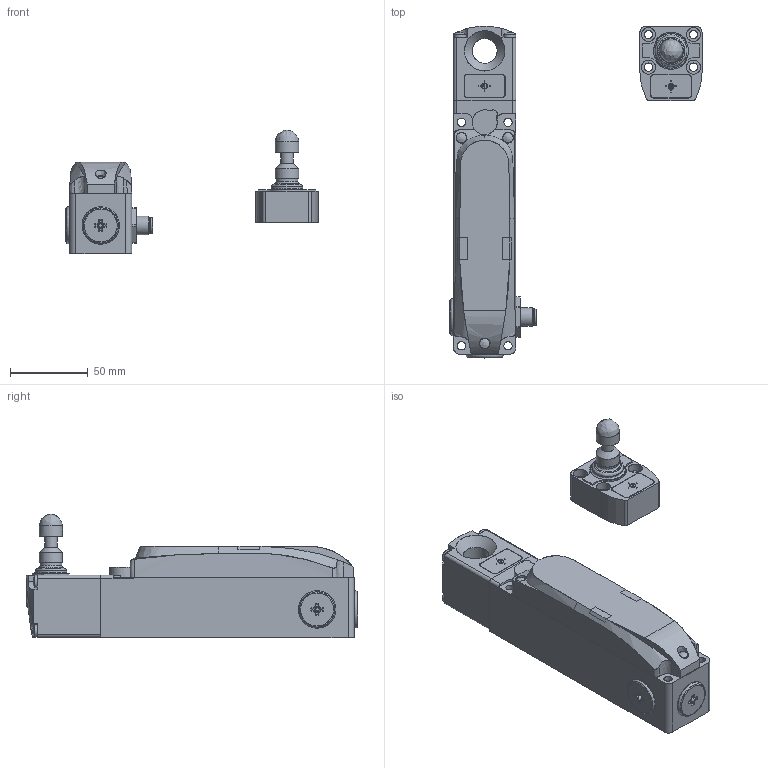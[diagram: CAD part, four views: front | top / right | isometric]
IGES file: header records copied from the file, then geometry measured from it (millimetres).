
Global section: file name: 3DCAD_L300_B3_M31M12B8Y2_MLM24_SCA.igs; native system: NX V2306; preprocessor: SIEMENS PLM Software NX2306.9180; date: 20250915.105611; units: millimetre
Bounding box: 162.4 x 213.8 x 79.7 mm (x, y, z)
Surface area: 76121 mm2 (no closed solid volume)
Topology: 0 solids, 0 shells, 495 faces, 3145 edges, 3064 vertices
Faces by surface type: bspline 495
